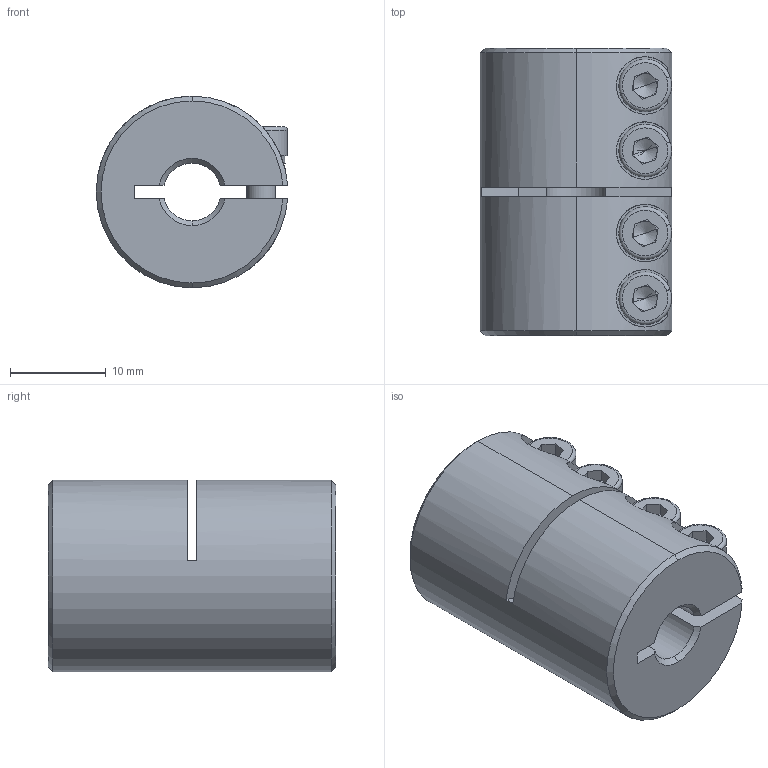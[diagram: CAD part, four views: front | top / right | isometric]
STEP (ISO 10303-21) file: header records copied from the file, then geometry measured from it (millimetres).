
FILE_DESCRIPTION (( 'STEP AP203' ), '1' );
FILE_NAME ('LL-B-D20L30-6-6.35.STEP', '2021-11-05T03:12:00', ( '' ), ( '' ), 'SwSTEP 2.0', 'SolidWorks 2018', '' );
FILE_SCHEMA (( 'CONFIG_CONTROL_DESIGN' ));
Length unit declared in the file: millimetre
Products named in the file (1): LL-B-D20L30-6-6.35
Bounding box: 19.98 x 30 x 20 mm (x, y, z)
Volume: 7828.1 mm3; surface area: 4537.1 mm2
Topology: 1 solids, 1 shells, 178 faces, 459 edges, 287 vertices
Faces by surface type: plane 89, cylinder 61, cone 20, torus 8
Entity records: 5821 total; most frequent: CARTESIAN_POINT 1349, DIRECTION 958, ORIENTED_EDGE 902, EDGE_CURVE 451, AXIS2_PLACEMENT_3D 368, VERTEX_POINT 287, LINE 222, VECTOR 222
